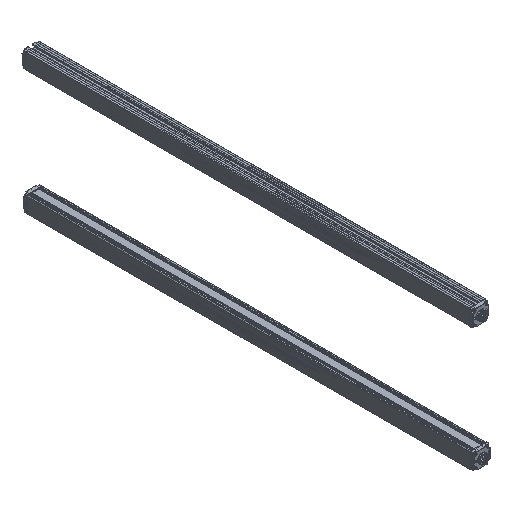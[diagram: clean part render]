
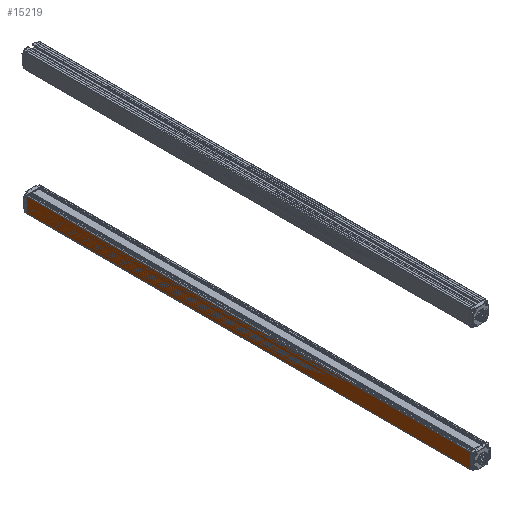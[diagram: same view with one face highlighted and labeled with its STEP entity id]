
A CAD part, isometric view. The second image highlights one B-rep face of the part: STEP entity #15219.
In plain terms, the highlighted planar face has unit normal (-1, 0, -0.009) as drawn and (1, 0, 0) by its records, which use the part's own axes.
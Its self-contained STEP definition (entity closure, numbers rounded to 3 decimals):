
#34 = FACE_OUTER_BOUND ( 'NONE', #12267, .T. ) ;
#1220 = PLANE ( 'NONE',  #15850 ) ;
#1408 = DIRECTION ( 'NONE',  ( -1., 0., 0. ) ) ;
#3784 = CARTESIAN_POINT ( 'NONE',  ( 15., 820., 10.9 ) ) ;
#4661 = CARTESIAN_POINT ( 'NONE',  ( 15., 820., -16.693 ) ) ;
#4879 = LINE ( 'NONE', #14607, #16718 ) ;
#4898 = CARTESIAN_POINT ( 'NONE',  ( 15., 0., -16.693 ) ) ;
#4983 = EDGE_CURVE ( 'NONE', #15199, #14595, #14912, .T. ) ;
#5713 = ORIENTED_EDGE ( 'NONE', *, *, #14663, .F. ) ;
#7116 = CARTESIAN_POINT ( 'NONE',  ( 15., 0., 10.9 ) ) ;
#8204 = ORIENTED_EDGE ( 'NONE', *, *, #4983, .T. ) ;
#8578 = EDGE_CURVE ( 'NONE', #12209, #11060, #17131, .T. ) ;
#8588 = VECTOR ( 'NONE', #10215, 1000. ) ;
#10215 = DIRECTION ( 'NONE',  ( 0., 1., 0. ) ) ;
#10733 = CARTESIAN_POINT ( 'NONE',  ( 15., 820., -16.693 ) ) ;
#11055 = DIRECTION ( 'NONE',  ( 0., 0., 1. ) ) ;
#11060 = VERTEX_POINT ( 'NONE', #10733 ) ;
#11647 = VECTOR ( 'NONE', #17734, 1000. ) ;
#11744 = DIRECTION ( 'NONE',  ( 0., 0., -1. ) ) ;
#12209 = VERTEX_POINT ( 'NONE', #4898 ) ;
#12267 = EDGE_LOOP ( 'NONE', ( #13719, #17444, #5713, #8204 ) ) ;
#12931 = VECTOR ( 'NONE', #11744, 1000. ) ;
#13261 = DIRECTION ( 'NONE',  ( 0., 0., -1. ) ) ;
#13719 = ORIENTED_EDGE ( 'NONE', *, *, #15132, .T. ) ;
#14294 = LINE ( 'NONE', #15744, #12931 ) ;
#14595 = VERTEX_POINT ( 'NONE', #7116 ) ;
#14607 = CARTESIAN_POINT ( 'NONE',  ( 15., 0., -16.9 ) ) ;
#14663 = EDGE_CURVE ( 'NONE', #15199, #11060, #14294, .T. ) ;
#14912 = LINE ( 'NONE', #15181, #11647 ) ;
#15132 = EDGE_CURVE ( 'NONE', #14595, #12209, #4879, .T. ) ;
#15181 = CARTESIAN_POINT ( 'NONE',  ( 15., 820., 10.9 ) ) ;
#15199 = VERTEX_POINT ( 'NONE', #3784 ) ;
#15219 = ADVANCED_FACE ( 'NONE', ( #34 ), #1220, .F. ) ;
#15744 = CARTESIAN_POINT ( 'NONE',  ( 15., 820., -16.9 ) ) ;
#15850 = AXIS2_PLACEMENT_3D ( 'NONE', #16517, #1408, #11055 ) ;
#16517 = CARTESIAN_POINT ( 'NONE',  ( 15., 820., -16.9 ) ) ;
#16718 = VECTOR ( 'NONE', #13261, 1000. ) ;
#17131 = LINE ( 'NONE', #4661, #8588 ) ;
#17444 = ORIENTED_EDGE ( 'NONE', *, *, #8578, .T. ) ;
#17734 = DIRECTION ( 'NONE',  ( 0., -1., 0. ) ) ;
